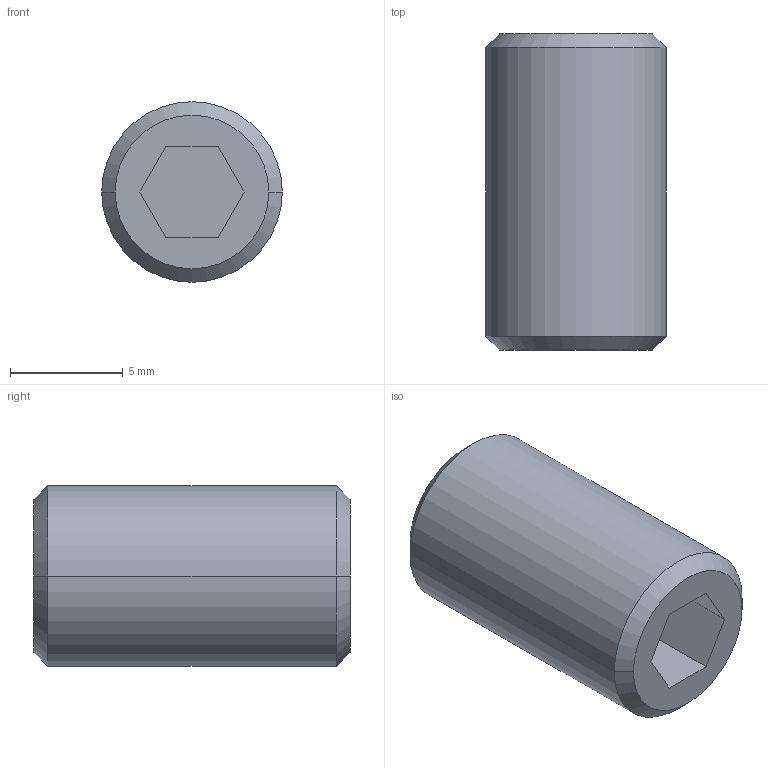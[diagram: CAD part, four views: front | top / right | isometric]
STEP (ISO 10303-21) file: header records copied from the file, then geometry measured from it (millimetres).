
FILE_DESCRIPTION((''),'2;1');
FILE_NAME('VTGEI0814','2002-12-27T',('Lipro doo'),('Lipro d.o.o.'),'PRO/ENGINEER BY PARAMETRIC TECHNOLOGY CORPORATION, 2001150','PRO/ENGINEER BY PARAMETRIC TECHNOLOGY CORPORATION, 2001150','');
FILE_SCHEMA(('CONFIG_CONTROL_DESIGN'));
Length unit declared in the file: millimetre
Products named in the file (1): VTGEI0814
Bounding box: 8 x 14 x 8 mm (x, y, z)
Volume: 653.6 mm3; surface area: 774.4 mm2
Topology: 1 solids, 2 shells, 17 faces, 38 edges, 24 vertices
Faces by surface type: plane 9, cone 4, cylinder 4
Entity records: 516 total; most frequent: DIRECTION 86, CARTESIAN_POINT 80, ORIENTED_EDGE 72, EDGE_CURVE 38, AXIS2_PLACEMENT_3D 30, VECTOR 26, LINE 26, VERTEX_POINT 24
